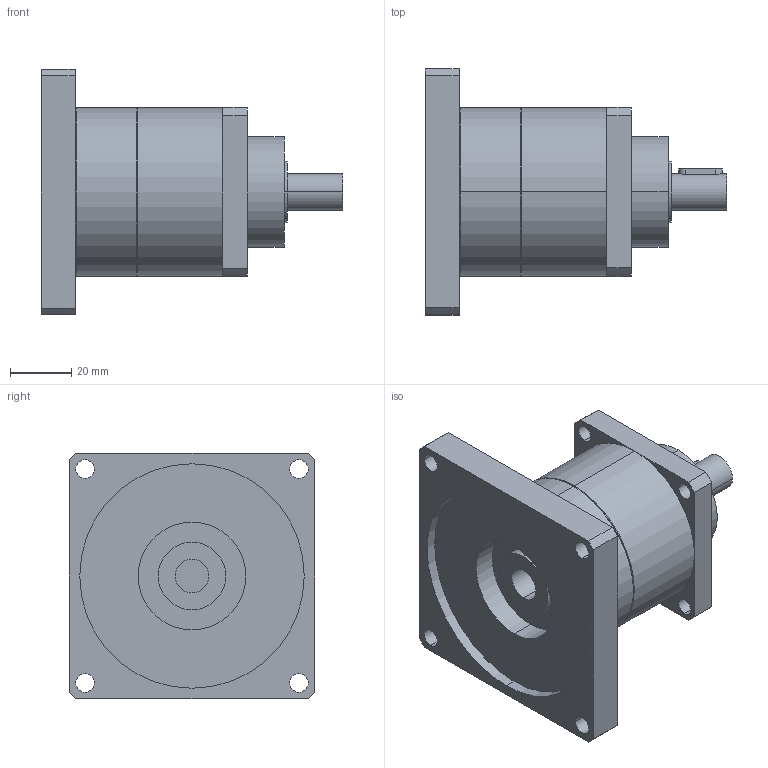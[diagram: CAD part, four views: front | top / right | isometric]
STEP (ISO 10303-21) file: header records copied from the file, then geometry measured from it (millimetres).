
FILE_DESCRIPTION(('CoCreate Modeling STEP Export'),'2;1');
FILE_NAME('GPT55_ig-3-4-5-7-10_12_B5A_11_P06.stp','2014-08-25T14:31:14',(''),(''),'CoCreate Modeling STEP processor for AP214 (Solid Model)','CoCreate Modeling 16.00C 25-Feb-2009 (C) Parametric Technology GmbH','');
FILE_SCHEMA(('AUTOMOTIVE_DESIGN { 1 0 10303 214 1 1 1 1 }'));
Length unit declared in the file: millimetre
Products named in the file (2): GPT55_ig-3-4-5-7-10_12_B5A_11_P06
Assembly tree (1 placements, depth 2):
  GPT55_ig-3-4-5-7-10_12_B5A_11_P06
    GPT55_ig-3-4-5-7-10_12_B5A_11_P06
Bounding box: 98 x 80 x 80 mm (x, y, z)
Volume: 197999.3 mm3; surface area: 33535.9 mm2
Topology: 1 solids, 1 shells, 77 faces, 204 edges, 139 vertices
Faces by surface type: cylinder 46, plane 27, cone 4
Entity records: 2515 total; most frequent: CARTESIAN_POINT 710, ORIENTED_EDGE 408, DIRECTION 318, EDGE_CURVE 204, VERTEX_POINT 139, AXIS2_PLACEMENT_3D 117, EDGE_LOOP 103, VECTOR 84
